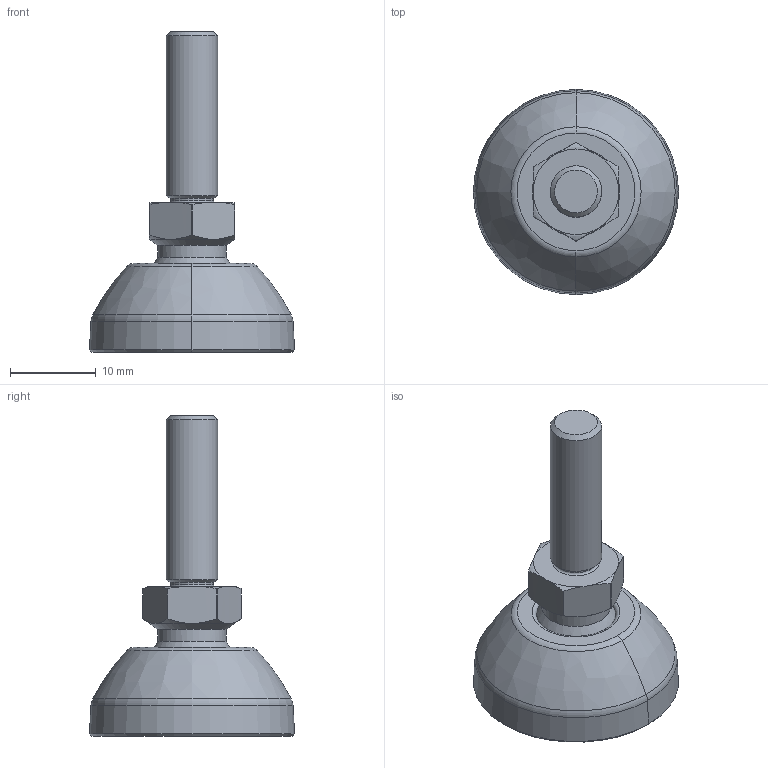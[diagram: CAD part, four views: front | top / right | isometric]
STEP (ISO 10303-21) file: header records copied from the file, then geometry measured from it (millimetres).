
FILE_DESCRIPTION(('STEP AP242'),'1');
FILE_NAME('TAPID25M06020PA.stp','2026-10-12T12:10:02',(' '),(' '),'Spatial InterOp 3D',' ',' ');
FILE_SCHEMA(('AP242_MANAGED_MODEL_BASED_3D_ENGINEERING_MIM_LF {1 0 10303 442 1 1 4}'));
Length unit declared in the file: millimetre
Products named in the file (3): TAPID25M06020PA; Tige filetée M6x20 (Ø10); TAPID25M06020PA1
Assembly tree (2 placements, depth 2):
  TAPID25M06020PA
    Tige filetée M6x20 (Ø10)
    TAPID25M06020PA1
Bounding box: 23.97 x 23.97 x 37.5 mm (x, y, z)
Volume: 4797.3 mm3; surface area: 2482.3 mm2
Topology: 2 solids, 2 shells, 54 faces, 125 edges, 74 vertices
Faces by surface type: torus 15, plane 10, cone 9, cylinder 9, bspline 8, sphere 3
Full cylindrical faces by diameter (mm): 5 x1, 6 x1, 8 x1
Entity records: 2362 total; most frequent: CARTESIAN_POINT 677, DIRECTION 248, ORIENTED_EDGE 216, AXIS2_PLACEMENT_3D 115, EDGE_CURVE 108, VERTEX_POINT 67, CIRCLE 66, EDGE_LOOP 63
